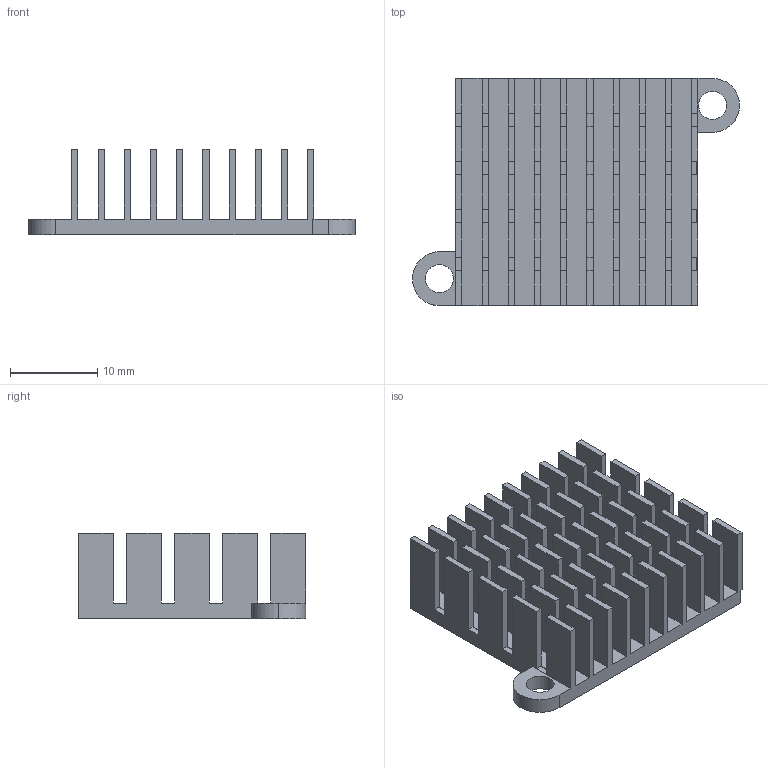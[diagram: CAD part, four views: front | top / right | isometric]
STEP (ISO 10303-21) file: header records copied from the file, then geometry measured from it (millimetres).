
FILE_DESCRIPTION (( 'STEP AP214' ), '1' );
FILE_NAME ('Ìîäåëü Ðàäèàòîðà.STEP', '2026-07-10T06:37:17', ( '' ), ( '' ), 'SwSTEP 2.0', 'SolidWorks 2026', '' );
FILE_SCHEMA (( 'AUTOMOTIVE_DESIGN' ));
Length unit declared in the file: millimetre
Products named in the file (1): Модель Радиатора
Bounding box: 37.41 x 26 x 9.78 mm (x, y, z)
Volume: 2459.3 mm3; surface area: 5525.2 mm2
Topology: 1 solids, 1 shells, 215 faces, 638 edges, 425 vertices
Faces by surface type: plane 208, cylinder 7
Entity records: 7100 total; most frequent: CARTESIAN_POINT 1279, ORIENTED_EDGE 1276, DIRECTION 1084, EDGE_CURVE 638, LINE 624, VECTOR 624, VERTEX_POINT 425, AXIS2_PLACEMENT_3D 230
